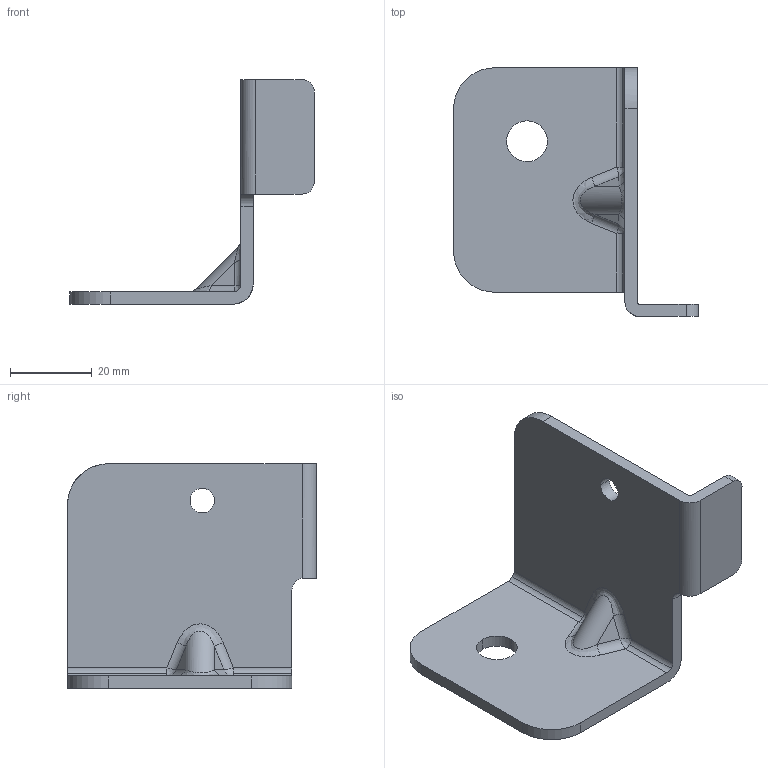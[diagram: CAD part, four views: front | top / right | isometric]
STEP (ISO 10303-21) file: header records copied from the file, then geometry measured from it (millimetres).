
FILE_DESCRIPTION(('CATIA V5 STEP Exchange'),'2;1');
FILE_NAME('E:\吉利商用车G3\10 2D\手动\钣金单件图纸\SHT0015282---SHT0015281-右前脚架\SHT0015281.stp','2023-06-19T13:38:59+00:00',('none'),('none'),'CATIA Version 5 Release 20 GA (IN-10)','CATIA V5 STEP AP214','none');
FILE_SCHEMA(('AUTOMOTIVE_DESIGN { 1 0 10303 214 1 1 1 1 }'));
Length unit declared in the file: millimetre
Products named in the file (1): Part60
Bounding box: 60 x 61 x 55 mm (x, y, z)
Volume: 16851.9 mm3; surface area: 12430.1 mm2
Topology: 1 solids, 1 shells, 57 faces, 148 edges, 87 vertices
Faces by surface type: cylinder 31, plane 16, bspline 6, sphere 4
Entity records: 2521 total; most frequent: CARTESIAN_POINT 1255, ORIENTED_EDGE 284, DIRECTION 198, EDGE_CURVE 142, VERTEX_POINT 87, AXIS2_PLACEMENT_3D 83, VECTOR 68, LINE 68
